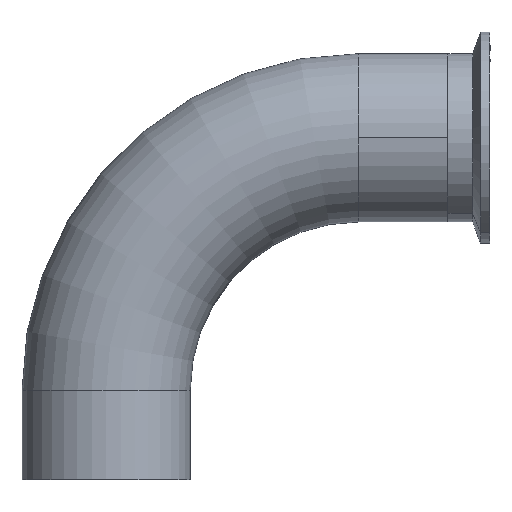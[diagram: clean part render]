
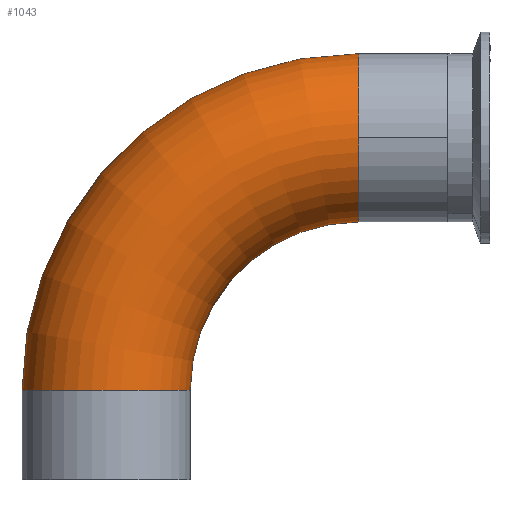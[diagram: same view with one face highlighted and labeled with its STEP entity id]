
A CAD part, top view. The second image highlights one B-rep face of the part: STEP entity #1043.
In plain terms, the highlighted toroidal (fillet/blend) face has major radius 76.2 mm and minor radius 25.4 mm.
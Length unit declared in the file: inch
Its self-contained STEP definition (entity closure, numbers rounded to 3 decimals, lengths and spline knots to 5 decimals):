
#1 = CARTESIAN_POINT ( 'NONE',  ( 2.76137, 4.34679, 3.85004 ) ) ;
#5 = AXIS2_PLACEMENT_3D ( 'NONE', #1, #814, #545 ) ;
#6 = ORIENTED_EDGE ( 'NONE', *, *, #259, .T. ) ;
#14 = AXIS2_PLACEMENT_3D ( 'NONE', #1042, #618, #87 ) ;
#42 = DIRECTION ( 'NONE',  ( 0., 0., -1. ) ) ;
#45 = CIRCLE ( 'NONE', #67, 4. ) ;
#52 = CARTESIAN_POINT ( 'NONE',  ( 2.76137, 4.34679, 4.85004 ) ) ;
#53 = AXIS2_PLACEMENT_3D ( 'NONE', #260, #138, #739 ) ;
#67 = AXIS2_PLACEMENT_3D ( 'NONE', #357, #923, #450 ) ;
#74 = CIRCLE ( 'NONE', #688, 1. ) ;
#84 = VERTEX_POINT ( 'NONE', #573 ) ;
#87 = DIRECTION ( 'NONE',  ( 1., 0., 0. ) ) ;
#138 = DIRECTION ( 'NONE',  ( 0., 0., -1. ) ) ;
#152 = EDGE_CURVE ( 'NONE', #898, #172, #45, .T. ) ;
#166 = EDGE_CURVE ( 'NONE', #84, #776, #478, .T. ) ;
#172 = VERTEX_POINT ( 'NONE', #209 ) ;
#209 = CARTESIAN_POINT ( 'NONE',  ( 2.76137, 5.34679, 3.85004 ) ) ;
#233 = EDGE_CURVE ( 'NONE', #84, #898, #809, .T. ) ;
#241 = EDGE_CURVE ( 'NONE', #981, #172, #322, .T. ) ;
#258 = DIRECTION ( 'NONE',  ( -1., 0., 0. ) ) ;
#259 = EDGE_CURVE ( 'NONE', #776, #981, #74, .T. ) ;
#260 = CARTESIAN_POINT ( 'NONE',  ( 2.76137, 1.34679, 3.85004 ) ) ;
#322 = CIRCLE ( 'NONE', #5, 1. ) ;
#357 = CARTESIAN_POINT ( 'NONE',  ( 2.76137, 1.34679, 3.85004 ) ) ;
#435 = ORIENTED_EDGE ( 'NONE', *, *, #166, .T. ) ;
#450 = DIRECTION ( 'NONE',  ( -1., 0., 0. ) ) ;
#477 = CARTESIAN_POINT ( 'NONE',  ( 2.76137, 1.34679, 3.85004 ) ) ;
#478 = CIRCLE ( 'NONE', #53, 2. ) ;
#522 = TOROIDAL_SURFACE ( 'NONE', #596, 3., 1. ) ;
#545 = DIRECTION ( 'NONE',  ( 0., -1., 0. ) ) ;
#564 = EDGE_LOOP ( 'NONE', ( #769, #838, #435, #6, #692 ) ) ;
#573 = CARTESIAN_POINT ( 'NONE',  ( 0.76137, 1.34679, 3.85004 ) ) ;
#596 = AXIS2_PLACEMENT_3D ( 'NONE', #477, #42, #651 ) ;
#618 = DIRECTION ( 'NONE',  ( 0., -1., 0. ) ) ;
#651 = DIRECTION ( 'NONE',  ( -1., 0., 0. ) ) ;
#688 = AXIS2_PLACEMENT_3D ( 'NONE', #781, #258, #846 ) ;
#692 = ORIENTED_EDGE ( 'NONE', *, *, #241, .T. ) ;
#707 = FACE_OUTER_BOUND ( 'NONE', #564, .T. ) ;
#739 = DIRECTION ( 'NONE',  ( -1., 0., 0. ) ) ;
#769 = ORIENTED_EDGE ( 'NONE', *, *, #152, .F. ) ;
#776 = VERTEX_POINT ( 'NONE', #865 ) ;
#781 = CARTESIAN_POINT ( 'NONE',  ( 2.76137, 4.34679, 3.85004 ) ) ;
#809 = CIRCLE ( 'NONE', #14, 1. ) ;
#814 = DIRECTION ( 'NONE',  ( -1., 0., 0. ) ) ;
#838 = ORIENTED_EDGE ( 'NONE', *, *, #233, .F. ) ;
#846 = DIRECTION ( 'NONE',  ( 0., -1., 0. ) ) ;
#865 = CARTESIAN_POINT ( 'NONE',  ( 2.76137, 3.34679, 3.85004 ) ) ;
#872 = CARTESIAN_POINT ( 'NONE',  ( -1.23863, 1.34679, 3.85004 ) ) ;
#898 = VERTEX_POINT ( 'NONE', #872 ) ;
#923 = DIRECTION ( 'NONE',  ( 0., 0., -1. ) ) ;
#981 = VERTEX_POINT ( 'NONE', #52 ) ;
#1042 = CARTESIAN_POINT ( 'NONE',  ( -0.23863, 1.34679, 3.85004 ) ) ;
#1043 = ADVANCED_FACE ( 'NONE', ( #707 ), #522, .T. ) ;
